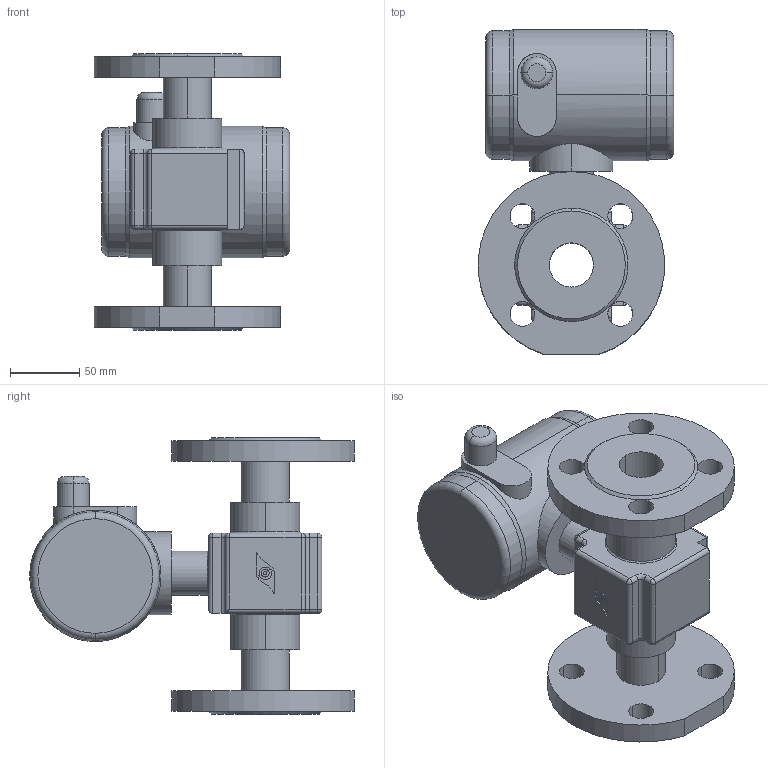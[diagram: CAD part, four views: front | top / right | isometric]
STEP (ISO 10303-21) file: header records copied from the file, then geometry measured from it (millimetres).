
FILE_DESCRIPTION (( 'STEP AP203' ), '1' );
FILE_NAME ('Ïèòåðôëîó ÐÑ32 ôëàíöåâûé äëÿ ñàéòà.STEP', '2015-11-03T09:00:53', ( '' ), ( '' ), 'SwSTEP 2.0', 'SolidWorks 2015', '' );
FILE_SCHEMA (( 'CONFIG_CONTROL_DESIGN' ));
Length unit declared in the file: millimetre
Products named in the file (2): Ïèòåðôëîó ÐÑ32 ôëàíöåâûé äëÿ ñàéòà
Bounding box: 141.35 x 235 x 200 mm (x, y, z)
Volume: 1756048.7 mm3; surface area: 191716.8 mm2
Topology: 3 solids, 3 shells, 193 faces, 466 edges, 280 vertices
Faces by surface type: cylinder 92, plane 58, cone 14, torus 11, sphere 10, bspline 8
Entity records: 6020 total; most frequent: CARTESIAN_POINT 1275, DIRECTION 1029, ORIENTED_EDGE 912, EDGE_CURVE 456, AXIS2_PLACEMENT_3D 410, VERTEX_POINT 280, EDGE_LOOP 226, CIRCLE 223
